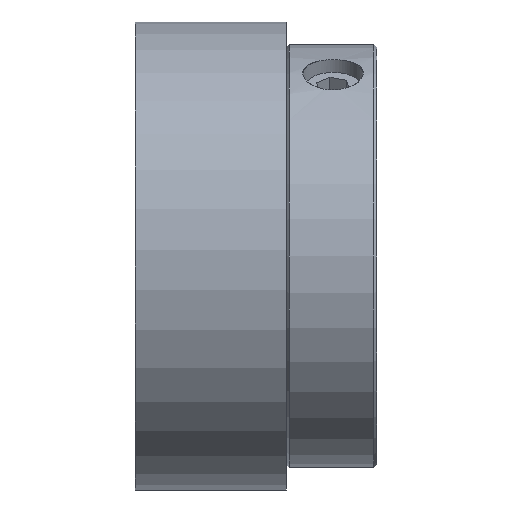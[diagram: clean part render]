
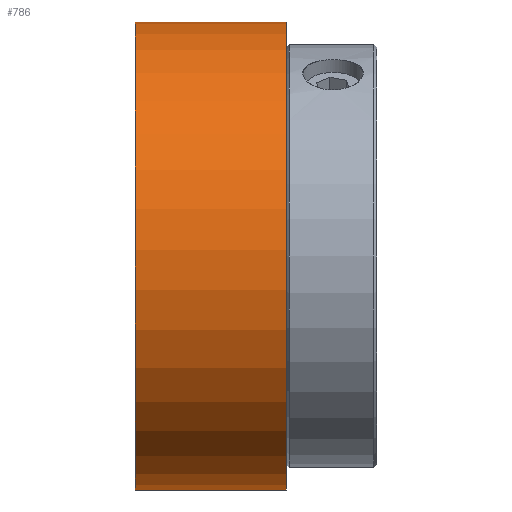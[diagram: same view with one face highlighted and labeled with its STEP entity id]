
A CAD part, front view. The second image highlights one B-rep face of the part: STEP entity #786.
In plain terms, the highlighted cylindrical face has radius 15.5 mm (diameter 31 mm), a full revolution.
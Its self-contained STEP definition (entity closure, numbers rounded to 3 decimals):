
#81 = AXIS2_PLACEMENT_3D ( 'NONE', #527, #533, #531 ) ;
#107 = AXIS2_PLACEMENT_3D ( 'NONE', #421, #420, #419 ) ;
#123 = AXIS2_PLACEMENT_3D ( 'NONE', #1112, #1111, #1110 ) ;
#162 = EDGE_CURVE ( 'NONE', #334, #334, #320, .T. ) ;
#193 = EDGE_CURVE ( 'NONE', #347, #347, #874, .T. ) ;
#320 = CIRCLE ( 'NONE', #123, 15.5 ) ;
#334 = VERTEX_POINT ( 'NONE', #1331 ) ;
#347 = VERTEX_POINT ( 'NONE', #1322 ) ;
#419 = DIRECTION ( 'NONE',  ( 0., -0.147, 0.989 ) ) ;
#420 = DIRECTION ( 'NONE',  ( -1., 0., 0. ) ) ;
#421 = CARTESIAN_POINT ( 'NONE',  ( 9.5, 0., 0. ) ) ;
#527 = CARTESIAN_POINT ( 'NONE',  ( -0.5, 0., 0. ) ) ;
#531 = DIRECTION ( 'NONE',  ( 0., 0.147, -0.989 ) ) ;
#533 = DIRECTION ( 'NONE',  ( 1., 0., 0. ) ) ;
#598 = EDGE_LOOP ( 'NONE', ( #996 ) ) ;
#631 = EDGE_LOOP ( 'NONE', ( #995 ) ) ;
#698 = FACE_OUTER_BOUND ( 'NONE', #598, .T. ) ;
#709 = FACE_OUTER_BOUND ( 'NONE', #631, .T. ) ;
#711 = CYLINDRICAL_SURFACE ( 'NONE', #81, 15.5 ) ;
#786 = ADVANCED_FACE ( 'NONE', ( #698, #709 ), #711, .T. ) ;
#874 = CIRCLE ( 'NONE', #107, 15.5 ) ;
#995 = ORIENTED_EDGE ( 'NONE', *, *, #193, .T. ) ;
#996 = ORIENTED_EDGE ( 'NONE', *, *, #162, .F. ) ;
#1110 = DIRECTION ( 'NONE',  ( 0., -0.147, 0.989 ) ) ;
#1111 = DIRECTION ( 'NONE',  ( -1., 0., 0. ) ) ;
#1112 = CARTESIAN_POINT ( 'NONE',  ( -0.5, 0., 0. ) ) ;
#1322 = CARTESIAN_POINT ( 'NONE',  ( 9.5, -2.28, 15.331 ) ) ;
#1331 = CARTESIAN_POINT ( 'NONE',  ( -0.5, -2.28, 15.331 ) ) ;
